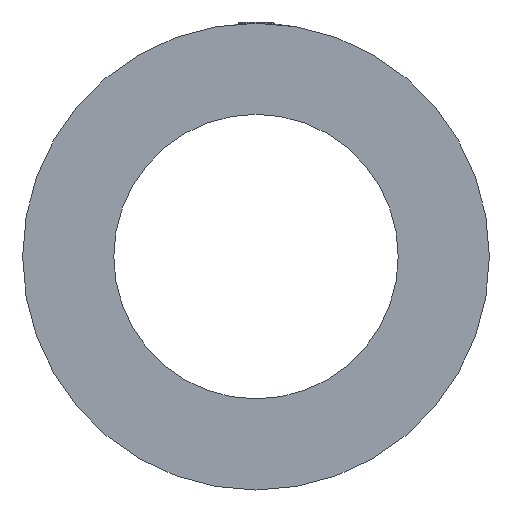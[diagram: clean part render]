
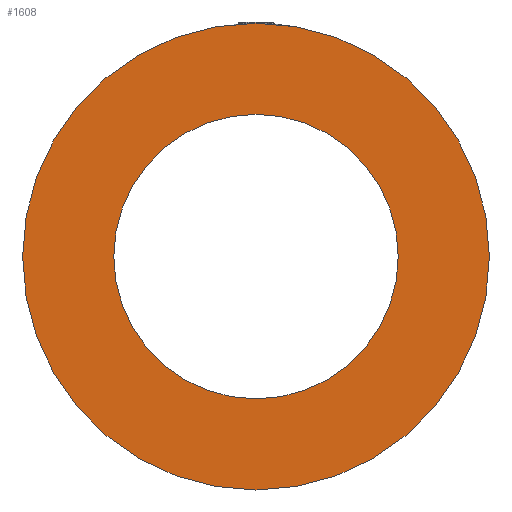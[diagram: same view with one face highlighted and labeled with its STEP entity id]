
A CAD part, left-side view. The second image highlights one B-rep face of the part: STEP entity #1608.
In plain terms, the highlighted planar face has unit normal (-1, 0, 0).
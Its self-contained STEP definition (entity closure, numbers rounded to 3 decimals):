
#31 = AXIS2_PLACEMENT_3D ( 'NONE', #211, #189, #193 ) ;
#189 = DIRECTION ( 'NONE',  ( -1., 0., 0. ) ) ;
#193 = DIRECTION ( 'NONE',  ( 0., 0., 1. ) ) ;
#211 = CARTESIAN_POINT ( 'NONE',  ( 0., 0., 0. ) ) ;
#215 = VERTEX_POINT ( 'NONE', #1671 ) ;
#240 = CIRCLE ( 'NONE', #31, 57.3 ) ;
#461 = AXIS2_PLACEMENT_3D ( 'NONE', #2629, #1482, #1993 ) ;
#496 = DIRECTION ( 'NONE',  ( 0., 0., -1. ) ) ;
#507 = EDGE_CURVE ( 'NONE', #215, #1549, #2137, .T. ) ;
#521 = DIRECTION ( 'NONE',  ( 1., 0., 0. ) ) ;
#572 = CARTESIAN_POINT ( 'NONE',  ( 0., 57.3, 0. ) ) ;
#621 = EDGE_CURVE ( 'NONE', #2434, #1682, #240, .T. ) ;
#713 = ORIENTED_EDGE ( 'NONE', *, *, #867, .T. ) ;
#778 = EDGE_LOOP ( 'NONE', ( #2134, #713 ) ) ;
#867 = EDGE_CURVE ( 'NONE', #1549, #215, #2479, .T. ) ;
#1109 = EDGE_CURVE ( 'NONE', #1682, #2434, #1770, .T. ) ;
#1401 = DIRECTION ( 'NONE',  ( 0., 0., 1. ) ) ;
#1423 = DIRECTION ( 'NONE',  ( -1., 0., 0. ) ) ;
#1426 = CARTESIAN_POINT ( 'NONE',  ( 0., 0., 0. ) ) ;
#1482 = DIRECTION ( 'NONE',  ( -1., 0., 0. ) ) ;
#1499 = ORIENTED_EDGE ( 'NONE', *, *, #1109, .F. ) ;
#1535 = PLANE ( 'NONE',  #2748 ) ;
#1549 = VERTEX_POINT ( 'NONE', #2325 ) ;
#1608 = ADVANCED_FACE ( 'NONE', ( #3053, #3027 ), #1535, .F. ) ;
#1671 = CARTESIAN_POINT ( 'NONE',  ( 0., 0., 94. ) ) ;
#1682 = VERTEX_POINT ( 'NONE', #2209 ) ;
#1770 = CIRCLE ( 'NONE', #2172, 57.3 ) ;
#1813 = CARTESIAN_POINT ( 'NONE',  ( 0., 0., 57.3 ) ) ;
#1910 = DIRECTION ( 'NONE',  ( 0., 0., 1. ) ) ;
#1929 = DIRECTION ( 'NONE',  ( -1., 0., 0. ) ) ;
#1938 = CARTESIAN_POINT ( 'NONE',  ( 0., 0., 0. ) ) ;
#1947 = EDGE_LOOP ( 'NONE', ( #2985, #1499 ) ) ;
#1993 = DIRECTION ( 'NONE',  ( 0., 0., 1. ) ) ;
#2134 = ORIENTED_EDGE ( 'NONE', *, *, #507, .T. ) ;
#2137 = CIRCLE ( 'NONE', #461, 94. ) ;
#2172 = AXIS2_PLACEMENT_3D ( 'NONE', #1938, #1929, #1910 ) ;
#2209 = CARTESIAN_POINT ( 'NONE',  ( 0., 0., -57.3 ) ) ;
#2325 = CARTESIAN_POINT ( 'NONE',  ( 0., 0., -94. ) ) ;
#2434 = VERTEX_POINT ( 'NONE', #1813 ) ;
#2479 = CIRCLE ( 'NONE', #2971, 94. ) ;
#2629 = CARTESIAN_POINT ( 'NONE',  ( 0., 0., 0. ) ) ;
#2748 = AXIS2_PLACEMENT_3D ( 'NONE', #572, #521, #496 ) ;
#2971 = AXIS2_PLACEMENT_3D ( 'NONE', #1426, #1423, #1401 ) ;
#2985 = ORIENTED_EDGE ( 'NONE', *, *, #621, .F. ) ;
#3027 = FACE_OUTER_BOUND ( 'NONE', #778, .T. ) ;
#3053 = FACE_BOUND ( 'NONE', #1947, .T. ) ;
